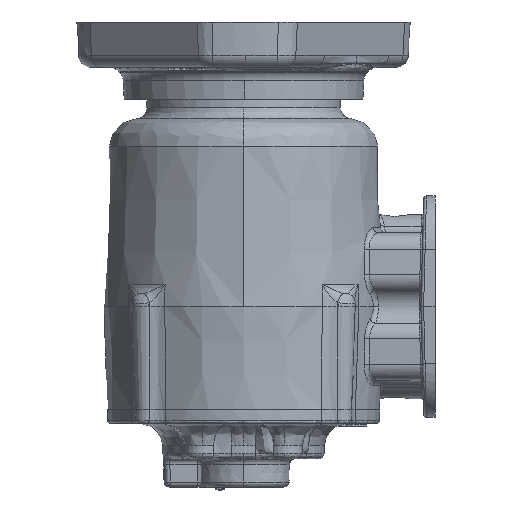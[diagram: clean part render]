
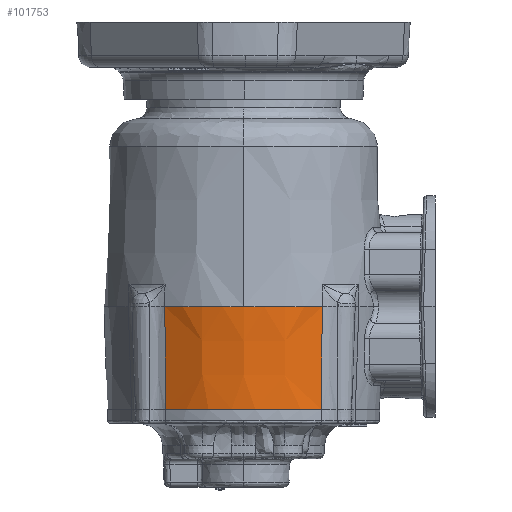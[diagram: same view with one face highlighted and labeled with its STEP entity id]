
A CAD part, left-side view. The second image highlights one B-rep face of the part: STEP entity #101753.
In plain terms, the highlighted conical face has half-angle 2 degrees and reference radius 78.232 mm.
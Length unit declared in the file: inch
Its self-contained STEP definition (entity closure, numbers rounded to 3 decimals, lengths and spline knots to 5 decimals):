
#1716 = DIRECTION ( 'NONE',  ( 0., 0., 1. ) ) ;
#5197 = EDGE_CURVE ( 'NONE', #6621, #96974, #108039, .T. ) ;
#6410 = ORIENTED_EDGE ( 'NONE', *, *, #123604, .F. ) ;
#6621 = VERTEX_POINT ( 'NONE', #24365 ) ;
#8534 = EDGE_LOOP ( 'NONE', ( #39998, #89093, #6410, #91680, #120305 ) ) ;
#9478 = CARTESIAN_POINT ( 'NONE',  ( -1.25, 3.3296, -2.2645 ) ) ;
#15041 = DIRECTION ( 'NONE',  ( 0., 0., 1. ) ) ;
#17506 = CARTESIAN_POINT ( 'NONE',  ( -3.79389, 1.59322, 0. ) ) ;
#20311 = CARTESIAN_POINT ( 'NONE',  ( -3.74025, 1.60953, -1.53104 ) ) ;
#21526 = VERTEX_POINT ( 'NONE', #80914 ) ;
#23860 = CARTESIAN_POINT ( 'NONE',  ( -3.71437, 5.04203, -2.2645 ) ) ;
#24365 = CARTESIAN_POINT ( 'NONE',  ( -3.71437, 1.61717, -2.2645 ) ) ;
#29241 = CARTESIAN_POINT ( 'NONE',  ( -3.71437, 1.61717, -2.2645 ) ) ;
#33891 = CARTESIAN_POINT ( 'NONE',  ( -4.33, 3.3296, 0. ) ) ;
#38132 = VERTEX_POINT ( 'NONE', #23860 ) ;
#39998 = ORIENTED_EDGE ( 'NONE', *, *, #116036, .F. ) ;
#48545 = AXIS2_PLACEMENT_3D ( 'NONE', #9478, #146854, #122390 ) ;
#54152 = EDGE_CURVE ( 'NONE', #21526, #38132, #91492, .T. ) ;
#58834 = CARTESIAN_POINT ( 'NONE',  ( -3.71437, 5.04203, -2.2645 ) ) ;
#68604 = CONICAL_SURFACE ( 'NONE', #94708, 3.08, 0.035 ) ;
#69248 = CIRCLE ( 'NONE', #121384, 3.08 ) ;
#70787 = CARTESIAN_POINT ( 'NONE',  ( -1.25, 3.3296, 0. ) ) ;
#74241 = CIRCLE ( 'NONE', #112214, 3.08 ) ;
#78617 = CARTESIAN_POINT ( 'NONE',  ( -1.25, 3.3296, 0. ) ) ;
#80095 = DIRECTION ( 'NONE',  ( 1., 0., 0. ) ) ;
#80914 = CARTESIAN_POINT ( 'NONE',  ( -3.79389, 5.06598, 0. ) ) ;
#81963 = DIRECTION ( 'NONE',  ( 1., 0., 0. ) ) ;
#84761 = CARTESIAN_POINT ( 'NONE',  ( -3.79389, 5.06598, 0. ) ) ;
#89093 = ORIENTED_EDGE ( 'NONE', *, *, #54152, .T. ) ;
#90469 = EDGE_CURVE ( 'NONE', #105417, #96974, #74241, .T. ) ;
#91492 = B_SPLINE_CURVE_WITH_KNOTS ( 'NONE', 3,
 ( #84761, #106315, #118160, #58834 ),
 .UNSPECIFIED., .F., .F.,
 ( 4, 4 ),
 ( 0., 1. ),
 .UNSPECIFIED. ) ;
#91680 = ORIENTED_EDGE ( 'NONE', *, *, #5197, .T. ) ;
#94708 = AXIS2_PLACEMENT_3D ( 'NONE', #70787, #15041, #81963 ) ;
#96974 = VERTEX_POINT ( 'NONE', #17506 ) ;
#98351 = CARTESIAN_POINT ( 'NONE',  ( -3.76676, 1.60154, -0.77621 ) ) ;
#101753 = ADVANCED_FACE ( 'NONE', ( #139068 ), #68604, .T. ) ;
#102771 = DIRECTION ( 'NONE',  ( 1., 0., 0. ) ) ;
#104233 = CARTESIAN_POINT ( 'NONE',  ( -1.25, 3.3296, 0. ) ) ;
#105417 = VERTEX_POINT ( 'NONE', #33891 ) ;
#106315 = CARTESIAN_POINT ( 'NONE',  ( -3.76676, 5.05766, -0.77621 ) ) ;
#108039 = B_SPLINE_CURVE_WITH_KNOTS ( 'NONE', 3,
 ( #29241, #20311, #98351, #133910 ),
 .UNSPECIFIED., .F., .F.,
 ( 4, 4 ),
 ( 0., 1. ),
 .UNSPECIFIED. ) ;
#112214 = AXIS2_PLACEMENT_3D ( 'NONE', #104233, #1716, #102771 ) ;
#112589 = CIRCLE ( 'NONE', #48545, 3.00092 ) ;
#116036 = EDGE_CURVE ( 'NONE', #21526, #105417, #69248, .T. ) ;
#118160 = CARTESIAN_POINT ( 'NONE',  ( -3.74025, 5.04967, -1.53104 ) ) ;
#120305 = ORIENTED_EDGE ( 'NONE', *, *, #90469, .F. ) ;
#121384 = AXIS2_PLACEMENT_3D ( 'NONE', #78617, #145444, #80095 ) ;
#122390 = DIRECTION ( 'NONE',  ( 1., 0., 0. ) ) ;
#123604 = EDGE_CURVE ( 'NONE', #6621, #38132, #112589, .T. ) ;
#133910 = CARTESIAN_POINT ( 'NONE',  ( -3.79389, 1.59322, 0. ) ) ;
#139068 = FACE_OUTER_BOUND ( 'NONE', #8534, .T. ) ;
#145444 = DIRECTION ( 'NONE',  ( 0., 0., 1. ) ) ;
#146854 = DIRECTION ( 'NONE',  ( 0., 0., -1. ) ) ;
